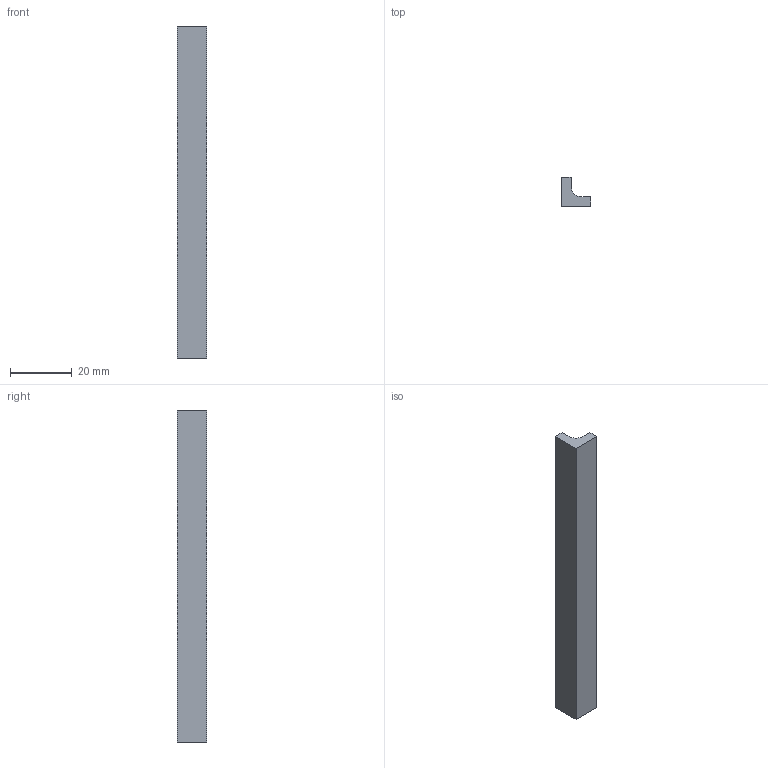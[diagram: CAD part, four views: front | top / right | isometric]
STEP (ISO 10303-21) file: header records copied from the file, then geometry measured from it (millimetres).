
FILE_DESCRIPTION(/* description */ ('Alibre Inc.'),/* implementation_level */ '2;1');
FILE_NAME(/* name */ 'export0',/* time_stamp */ '2014-01-01T18:52:46-05:00',/* author */ (''),/* organization */ (''),/* preprocessor_version */ 'ST-DEVELOPER v14',/* originating_system */ 'Alibre',/* authorisation */ '');
FILE_SCHEMA (('CONFIG_CONTROL_DESIGN'));
Length unit declared in the file: centimetre
Products named in the file (1): ID_1
Bounding box: 9.53 x 9.53 x 107.95 mm (x, y, z)
Volume: 5674.5 mm3; surface area: 4070.9 mm2
Topology: 1 solids, 1 shells, 9 faces, 21 edges, 14 vertices
Faces by surface type: plane 8, cylinder 1
Entity records: 334 total; most frequent: CARTESIAN_POINT 44, ORIENTED_EDGE 42, DIRECTION 33, EDGE_CURVE 21, VECTOR 19, LINE 19, VERTEX_POINT 14, AXIS2_PLACEMENT_3D 11
